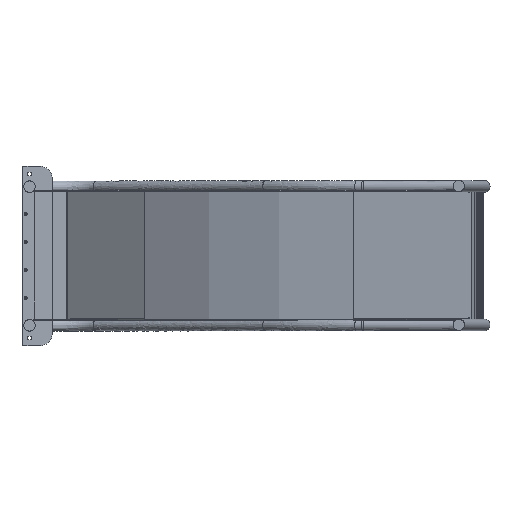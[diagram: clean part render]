
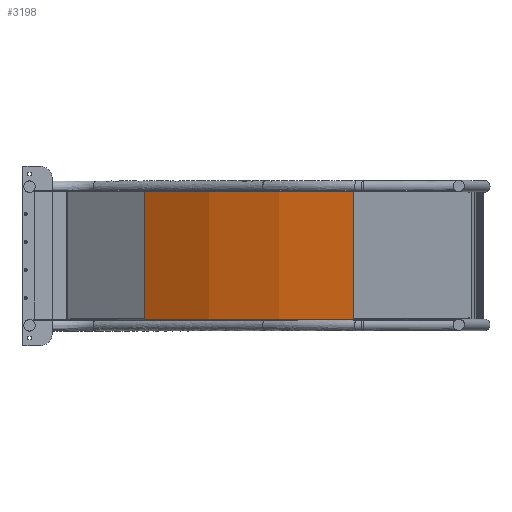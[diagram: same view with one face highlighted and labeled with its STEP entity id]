
A CAD part, top view. The second image highlights one B-rep face of the part: STEP entity #3198.
In plain terms, the highlighted cylindrical face has radius 1524.43 mm (diameter 3048.85 mm), a partial arc.
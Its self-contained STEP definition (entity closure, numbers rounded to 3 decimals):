
#165=CYLINDRICAL_SURFACE('',#3584,1524.427);
#220=CIRCLE('',#3582,1524.427);
#222=CIRCLE('',#3585,1524.427);
#345=FACE_OUTER_BOUND('',#542,.T.);
#542=EDGE_LOOP('',(#2342,#2343,#2344,#2345));
#796=LINE('',#5180,#1123);
#800=LINE('',#5193,#1127);
#1123=VECTOR('',#4057,10.);
#1127=VECTOR('',#4071,10.);
#1429=VERTEX_POINT('',#5176);
#1431=VERTEX_POINT('',#5179);
#1433=VERTEX_POINT('',#5185);
#1435=VERTEX_POINT('',#5191);
#1754=EDGE_CURVE('',#1431,#1429,#796,.T.);
#1757=EDGE_CURVE('',#1431,#1433,#220,.T.);
#1760=EDGE_CURVE('',#1429,#1435,#222,.T.);
#1761=EDGE_CURVE('',#1435,#1433,#800,.F.);
#2342=ORIENTED_EDGE('',*,*,#1754,.T.);
#2343=ORIENTED_EDGE('',*,*,#1760,.T.);
#2344=ORIENTED_EDGE('',*,*,#1761,.T.);
#2345=ORIENTED_EDGE('',*,*,#1757,.F.);
#3198=ADVANCED_FACE('',(#345),#165,.T.);
#3582=AXIS2_PLACEMENT_3D('',#5186,#4062,#4063);
#3584=AXIS2_PLACEMENT_3D('',#5190,#4067,#4068);
#3585=AXIS2_PLACEMENT_3D('',#5192,#4069,#4070);
#4057=DIRECTION('',(0.,-1.,0.));
#4062=DIRECTION('center_axis',(0.,1.,0.));
#4063=DIRECTION('ref_axis',(-1.,0.,0.));
#4067=DIRECTION('center_axis',(0.,1.,0.));
#4068=DIRECTION('ref_axis',(-1.,0.,0.));
#4069=DIRECTION('center_axis',(0.,1.,0.));
#4070=DIRECTION('ref_axis',(-1.,0.,0.));
#4071=DIRECTION('',(0.,-1.,0.));
#5176=CARTESIAN_POINT('',(39.711,0.,1523.909));
#5179=CARTESIAN_POINT('',(39.711,427.,1523.909));
#5180=CARTESIAN_POINT('',(39.711,-3.,1523.909));
#5185=CARTESIAN_POINT('',(761.029,427.,1320.875));
#5186=CARTESIAN_POINT('Origin',(0.,427.,0.));
#5190=CARTESIAN_POINT('Origin',(0.,-3.,0.));
#5191=CARTESIAN_POINT('',(761.029,0.,1320.875));
#5192=CARTESIAN_POINT('Origin',(0.,0.,0.));
#5193=CARTESIAN_POINT('',(761.029,-3.,1320.875));
